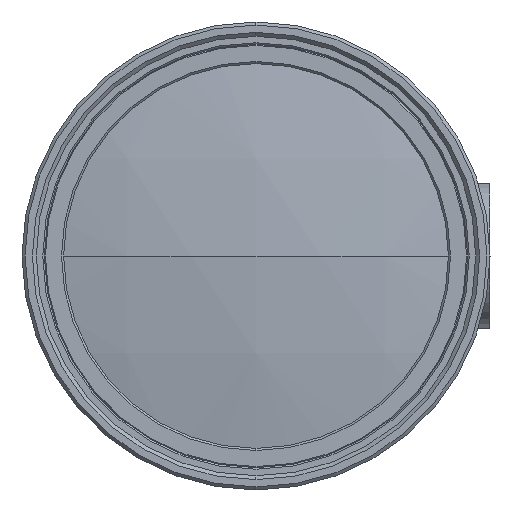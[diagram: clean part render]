
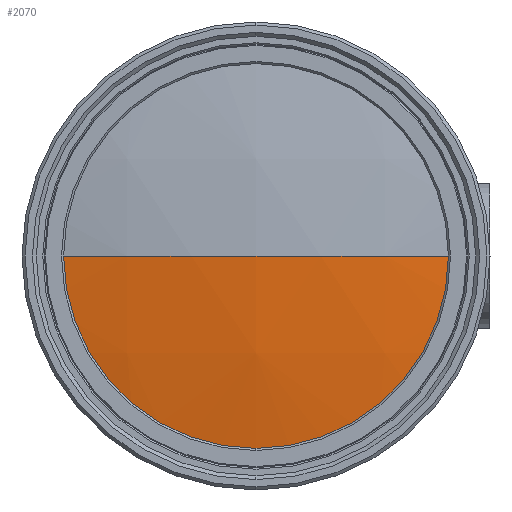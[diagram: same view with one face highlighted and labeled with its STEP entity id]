
A CAD part, left-side view. The second image highlights one B-rep face of the part: STEP entity #2070.
In plain terms, the highlighted spherical face has radius 99.8 mm.
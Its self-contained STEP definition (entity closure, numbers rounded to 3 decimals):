
#92 = CARTESIAN_POINT ( 'NONE',  ( 5.45, -18.6, 0. ) ) ;
#108 = CIRCLE ( 'NONE', #2413, 99.8 ) ;
#150 = CARTESIAN_POINT ( 'NONE',  ( 5.45, 0., 0. ) ) ;
#331 = DIRECTION ( 'NONE',  ( 0., 1., 0. ) ) ;
#463 = DIRECTION ( 'NONE',  ( 0., 0., 1. ) ) ;
#665 = DIRECTION ( 'NONE',  ( -1., 0., 0. ) ) ;
#757 = CIRCLE ( 'NONE', #1270, 99.8 ) ;
#807 = CARTESIAN_POINT ( 'NONE',  ( 103.502, 0., 0. ) ) ;
#828 = ORIENTED_EDGE ( 'NONE', *, *, #2415, .T. ) ;
#830 = SPHERICAL_SURFACE ( 'NONE', #4151, 99.8 ) ;
#918 = AXIS2_PLACEMENT_3D ( 'NONE', #150, #2405, #463 ) ;
#1000 = CARTESIAN_POINT ( 'NONE',  ( 5.45, 18.6, 0. ) ) ;
#1056 = AXIS2_PLACEMENT_3D ( 'NONE', #2604, #665, #2942 ) ;
#1073 = ORIENTED_EDGE ( 'NONE', *, *, #3418, .F. ) ;
#1133 = DIRECTION ( 'NONE',  ( 0., 1., 0. ) ) ;
#1270 = AXIS2_PLACEMENT_3D ( 'NONE', #807, #3085, #1133 ) ;
#1351 = DIRECTION ( 'NONE',  ( 0., 0., 1. ) ) ;
#1411 = ORIENTED_EDGE ( 'NONE', *, *, #3371, .T. ) ;
#1449 = VERTEX_POINT ( 'NONE', #4104 ) ;
#1450 = VERTEX_POINT ( 'NONE', #92 ) ;
#1704 = FACE_OUTER_BOUND ( 'NONE', #3169, .T. ) ;
#1976 = VERTEX_POINT ( 'NONE', #2869 ) ;
#2070 = ADVANCED_FACE ( 'NONE', ( #1704 ), #830, .T. ) ;
#2405 = DIRECTION ( 'NONE',  ( -1., 0., 0. ) ) ;
#2413 = AXIS2_PLACEMENT_3D ( 'NONE', #3294, #1351, #3618 ) ;
#2415 = EDGE_CURVE ( 'NONE', #1450, #1449, #757, .T. ) ;
#2604 = CARTESIAN_POINT ( 'NONE',  ( 5.45, 0., 0. ) ) ;
#2869 = CARTESIAN_POINT ( 'NONE',  ( 5.45, 0., -18.6 ) ) ;
#2905 = CIRCLE ( 'NONE', #1056, 18.6 ) ;
#2942 = DIRECTION ( 'NONE',  ( 0., 0., 1. ) ) ;
#3085 = DIRECTION ( 'NONE',  ( 0., 0., -1. ) ) ;
#3125 = EDGE_CURVE ( 'NONE', #3820, #1976, #3961, .T. ) ;
#3169 = EDGE_LOOP ( 'NONE', ( #1411, #828, #1073, #3380 ) ) ;
#3227 = CARTESIAN_POINT ( 'NONE',  ( 103.502, 0., 0. ) ) ;
#3294 = CARTESIAN_POINT ( 'NONE',  ( 103.502, 0., 0. ) ) ;
#3371 = EDGE_CURVE ( 'NONE', #1976, #1450, #2905, .T. ) ;
#3380 = ORIENTED_EDGE ( 'NONE', *, *, #3125, .T. ) ;
#3418 = EDGE_CURVE ( 'NONE', #3820, #1449, #108, .T. ) ;
#3566 = DIRECTION ( 'NONE',  ( 0., 0., -1. ) ) ;
#3618 = DIRECTION ( 'NONE',  ( 1., 0., 0. ) ) ;
#3820 = VERTEX_POINT ( 'NONE', #1000 ) ;
#3961 = CIRCLE ( 'NONE', #918, 18.6 ) ;
#4104 = CARTESIAN_POINT ( 'NONE',  ( 3.702, 0., 0. ) ) ;
#4151 = AXIS2_PLACEMENT_3D ( 'NONE', #3227, #3566, #331 ) ;
